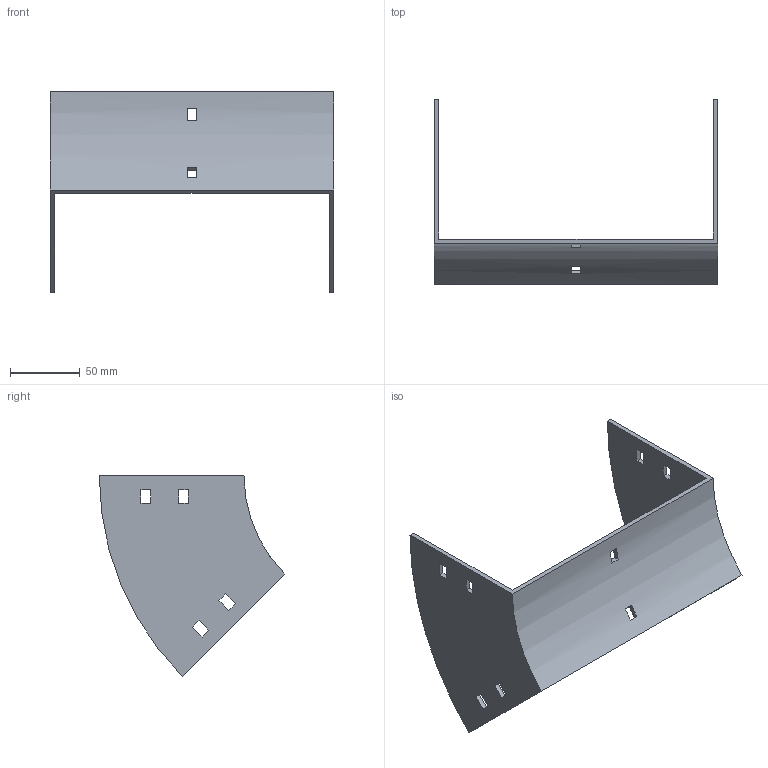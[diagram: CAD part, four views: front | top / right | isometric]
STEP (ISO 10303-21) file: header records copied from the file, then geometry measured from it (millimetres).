
FILE_DESCRIPTION (( 'STEP AP214' ), '1' );
FILE_NAME ('34B1D200.step', '2025-02-21T09:27:23', ( '' ), ( '' ), 'SwSTEP 2.0', 'SolidWorks 2023', '' );
FILE_SCHEMA (( 'AUTOMOTIVE_DESIGN' ));
Length unit declared in the file: millimetre
Products named in the file (1): 34B1D200
Bounding box: 204 x 133.29 x 144.25 mm (x, y, z)
Volume: 139634.8 mm3; surface area: 84910.3 mm2
Topology: 1 solids, 1 shells, 50 faces, 144 edges, 96 vertices
Faces by surface type: plane 46, cylinder 4
Entity records: 1687 total; most frequent: CARTESIAN_POINT 291, ORIENTED_EDGE 288, DIRECTION 262, EDGE_CURVE 144, VECTOR 128, LINE 128, VERTEX_POINT 96, EDGE_LOOP 70
